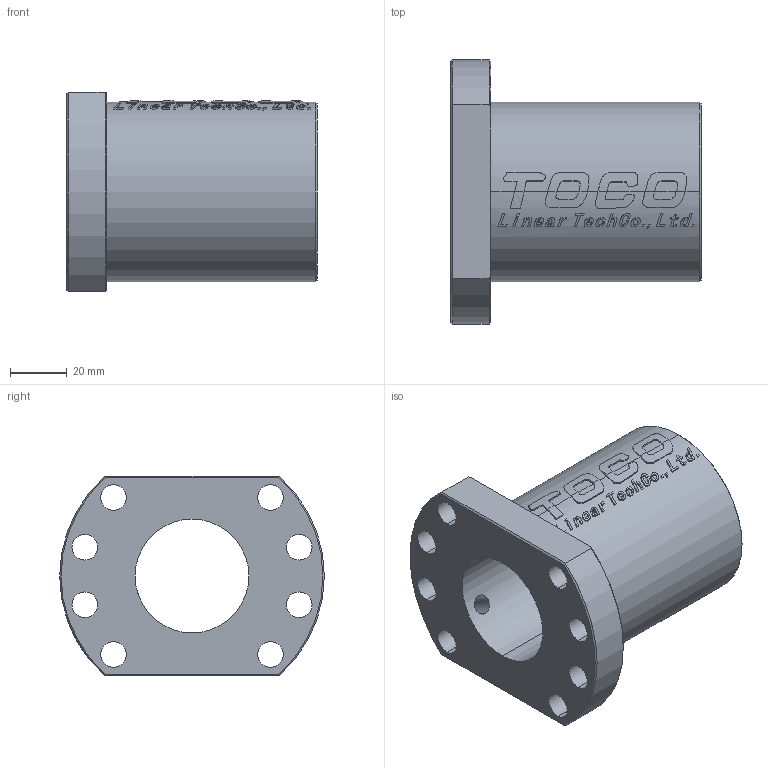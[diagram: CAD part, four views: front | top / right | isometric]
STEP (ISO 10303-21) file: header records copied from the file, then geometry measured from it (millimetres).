
FILE_DESCRIPTION (( 'STEP AP214' ), '1' );
FILE_NAME ('7.3111 STNUR4010T4D.STEP', '2026-03-03T11:56:20', ( '' ), ( '' ), 'SwSTEP 2.0', 'SolidWorks 2025', '' );
FILE_SCHEMA (( 'AUTOMOTIVE_DESIGN' ));
Length unit declared in the file: millimetre
Products named in the file (1): 7.3111 STNUR4010T4D
Bounding box: 88 x 93 x 70 mm (x, y, z)
Volume: 196388.8 mm3; surface area: 41788.6 mm2
Topology: 1 solids, 1 shells, 577 faces, 1642 edges, 1092 vertices
Faces by surface type: bspline 425, plane 86, cylinder 60, cone 6
Entity records: 31392 total; most frequent: CARTESIAN_POINT 19272, ORIENTED_EDGE 3284, EDGE_CURVE 1642, DIRECTION 1128, VERTEX_POINT 1092, B_SPLINE_CURVE_WITH_KNOTS 888, VECTOR 686, LINE 686
